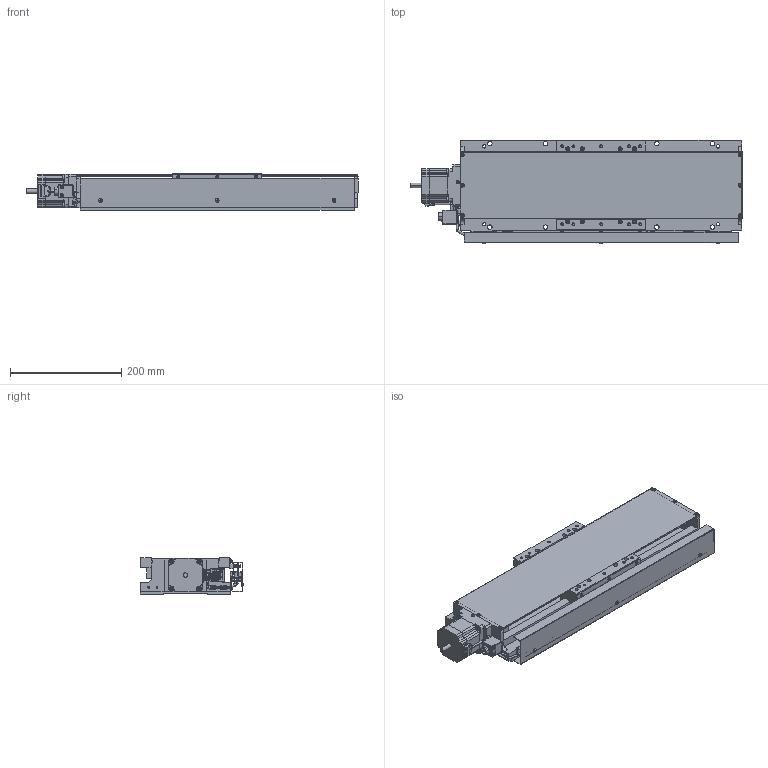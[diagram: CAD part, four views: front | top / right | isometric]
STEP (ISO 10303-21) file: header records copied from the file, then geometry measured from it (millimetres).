
FILE_DESCRIPTION (( 'STEP AP203' ), '1' );
FILE_NAME ('XA16F-L2301.STEP', '2019-03-07T04:00:16', ( '' ), ( '' ), 'SwSTEP 2.0', 'SolidWorks 2018', '' );
FILE_SCHEMA (( 'CONFIG_CONTROL_DESIGN' ));
Length unit declared in the file: millimetre
Products named in the file (5): table-Part-1; base; table; table-Part-2; XA16F-L2301
Assembly tree (4 placements, depth 3):
  XA16F-L2301
    table
      table-Part-1
      table-Part-2
    base
Bounding box: 596.5 x 185.89 x 65 mm (x, y, z)
Volume: 2759810.8 mm3; surface area: 640834.9 mm2
Topology: 3 solids, 5 shells, 2671 faces, 6581 edges, 4066 vertices
Faces by surface type: plane 1570, cylinder 665, cone 348, torus 36, sphere 32, bspline 20
Entity records: 79559 total; most frequent: CARTESIAN_POINT 14801, DIRECTION 13860, ORIENTED_EDGE 12974, EDGE_CURVE 6487, AXIS2_PLACEMENT_3D 4859, VECTOR 4142, LINE 4142, VERTEX_POINT 4066
